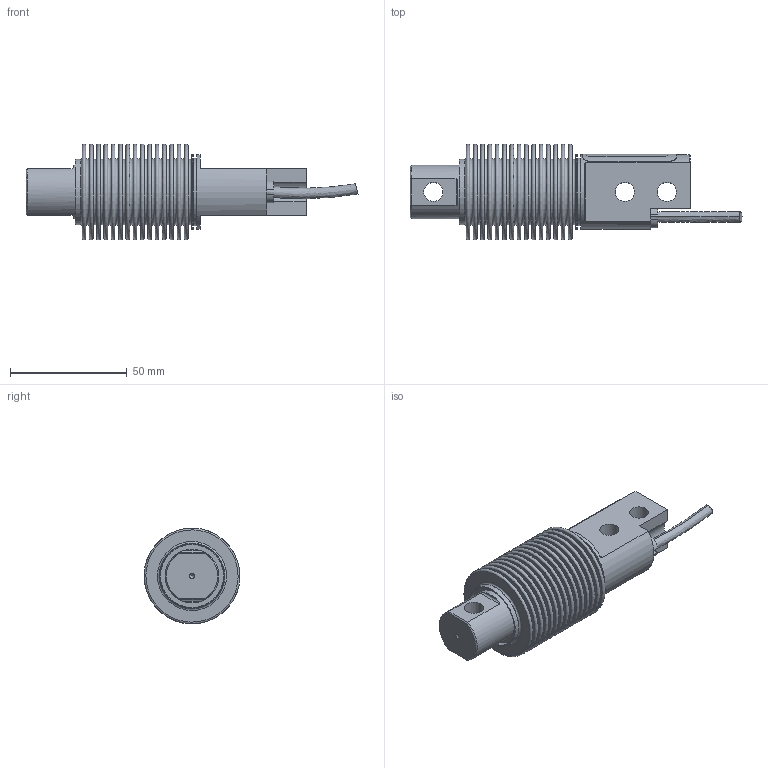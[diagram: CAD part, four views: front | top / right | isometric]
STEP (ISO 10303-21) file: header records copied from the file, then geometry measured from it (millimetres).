
FILE_DESCRIPTION(/* description */ (''),/* implementation_level */ '2;1');
FILE_NAME(/* name */ 'I:/New Datasheets/STEP Models/Pending models/OBBS 10...250 kg.step',/* time_stamp */ '2019-08-23T13:49:20+01:00',/* author */ (''),/* organization */ (''),/* preprocessor_version */ 'ST-DEVELOPER v18',/* originating_system */ 'Autodesk Translation Framework v8.6.0.1094',/* authorisation */ '');
FILE_SCHEMA (('AUTOMOTIVE_DESIGN { 1 0 10303 214 3 1 1 }'));
Length unit declared in the file: millimetre
Products named in the file (2): OBBS 10...250 kg; OBBS-10kg
Assembly tree (1 placements, depth 2):
  OBBS 10...250 kg
    OBBS-10kg
Bounding box: 142.14 x 41.06 x 41.06 mm (x, y, z)
Volume: 62235.7 mm3; surface area: 64133.2 mm2
Topology: 3 solids, 4 shells, 221 faces, 545 edges, 399 vertices
Faces by surface type: plane 109, torus 68, cylinder 31, cone 11, bspline 2
Full cylindrical faces by diameter (mm): 6.1 x1, 8.2 x3, 8.529 x1, 9.5 x1, 23 x1, 26 x1, 27 x1, 27.5 x1, 27.6 x1, 27.71 x1, 28.01 x1, 29 x1, 32 x3
Entity records: 7245 total; most frequent: CARTESIAN_POINT 1478, DIRECTION 1358, ORIENTED_EDGE 1084, AXIS2_PLACEMENT_3D 625, EDGE_CURVE 542, CIRCLE 402, VERTEX_POINT 399, EDGE_LOOP 299
